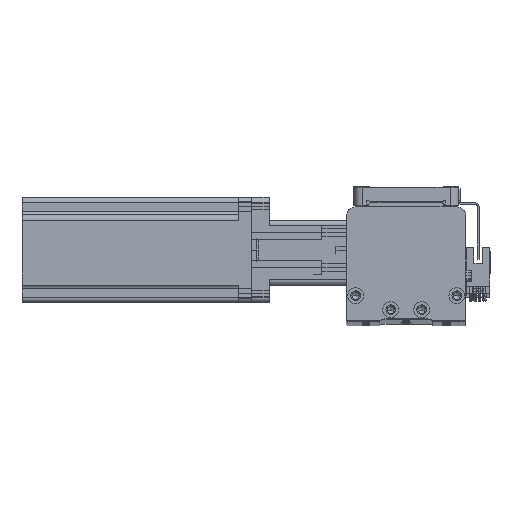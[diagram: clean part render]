
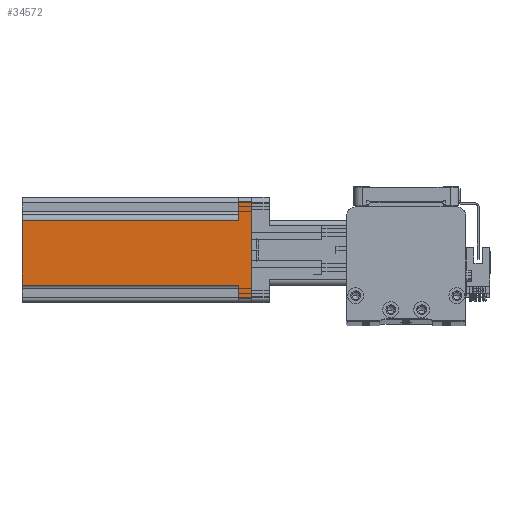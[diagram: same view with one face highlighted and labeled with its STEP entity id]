
A CAD part, top view. The second image highlights one B-rep face of the part: STEP entity #34572.
In plain terms, the highlighted planar face has unit normal (0, 0, 1) as drawn and (-1, 0, 0) by its records, which use the part's own axes.
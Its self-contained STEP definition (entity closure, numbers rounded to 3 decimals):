
#564 = CARTESIAN_POINT ( 'NONE',  ( -30., -27., 0. ) ) ;
#1394 = CARTESIAN_POINT ( 'NONE',  ( -30., 27., 7.5 ) ) ;
#2152 = EDGE_CURVE ( 'NONE', #39857, #15770, #28894, .T. ) ;
#3381 = FACE_OUTER_BOUND ( 'NONE', #32005, .T. ) ;
#3796 = ORIENTED_EDGE ( 'NONE', *, *, #9120, .T. ) ;
#3844 = DIRECTION ( 'NONE',  ( 0., 0., 1. ) ) ;
#4146 = LINE ( 'NONE', #44801, #44217 ) ;
#5208 = ORIENTED_EDGE ( 'NONE', *, *, #21636, .T. ) ;
#5736 = DIRECTION ( 'NONE',  ( 0., 0., 1. ) ) ;
#6199 = VERTEX_POINT ( 'NONE', #21286 ) ;
#7699 = VERTEX_POINT ( 'NONE', #49802 ) ;
#8066 = CARTESIAN_POINT ( 'NONE',  ( -30., -30., 0. ) ) ;
#9120 = EDGE_CURVE ( 'NONE', #10319, #39857, #33418, .T. ) ;
#9353 = VERTEX_POINT ( 'NONE', #9758 ) ;
#9758 = CARTESIAN_POINT ( 'NONE',  ( -30., -17., 7.5 ) ) ;
#10085 = LINE ( 'NONE', #47963, #39741 ) ;
#10319 = VERTEX_POINT ( 'NONE', #43093 ) ;
#10360 = CARTESIAN_POINT ( 'NONE',  ( -30., 20., 7.5 ) ) ;
#10923 = DIRECTION ( 'NONE',  ( 0., -1., 0. ) ) ;
#11721 = DIRECTION ( 'NONE',  ( 0., 1., 0. ) ) ;
#13825 = ORIENTED_EDGE ( 'NONE', *, *, #19940, .F. ) ;
#14317 = VECTOR ( 'NONE', #10923, 1000. ) ;
#15727 = ORIENTED_EDGE ( 'NONE', *, *, #2152, .T. ) ;
#15770 = VERTEX_POINT ( 'NONE', #26136 ) ;
#18259 = ORIENTED_EDGE ( 'NONE', *, *, #25940, .F. ) ;
#19940 = EDGE_CURVE ( 'NONE', #9353, #15770, #4146, .T. ) ;
#21286 = CARTESIAN_POINT ( 'NONE',  ( -30., -17., 130.7 ) ) ;
#21522 = DIRECTION ( 'NONE',  ( 0., -1., 0. ) ) ;
#21636 = EDGE_CURVE ( 'NONE', #9353, #6199, #37883, .T. ) ;
#22257 = CARTESIAN_POINT ( 'NONE',  ( -30., -30., 130.7 ) ) ;
#22318 = DIRECTION ( 'NONE',  ( 1., 0., 0. ) ) ;
#23174 = VECTOR ( 'NONE', #31202, 1000. ) ;
#24695 = DIRECTION ( 'NONE',  ( 0., 0., 1. ) ) ;
#24703 = VECTOR ( 'NONE', #11721, 1000. ) ;
#25940 = EDGE_CURVE ( 'NONE', #49722, #7699, #10085, .T. ) ;
#26136 = CARTESIAN_POINT ( 'NONE',  ( -30., -27., 7.5 ) ) ;
#26776 = EDGE_CURVE ( 'NONE', #7699, #6199, #34851, .T. ) ;
#27661 = VECTOR ( 'NONE', #47698, 1000. ) ;
#28079 = ORIENTED_EDGE ( 'NONE', *, *, #33471, .T. ) ;
#28435 = VERTEX_POINT ( 'NONE', #1394 ) ;
#28866 = LINE ( 'NONE', #43813, #27661 ) ;
#28894 = LINE ( 'NONE', #50330, #40454 ) ;
#29440 = AXIS2_PLACEMENT_3D ( 'NONE', #45569, #22318, #49457 ) ;
#29880 = PLANE ( 'NONE',  #29440 ) ;
#30967 = CARTESIAN_POINT ( 'NONE',  ( -30., 30., 7.5 ) ) ;
#31202 = DIRECTION ( 'NONE',  ( 0., -1., 0. ) ) ;
#32005 = EDGE_LOOP ( 'NONE', ( #13825, #5208, #49772, #18259, #28079, #49883, #3796, #15727 ) ) ;
#33418 = LINE ( 'NONE', #8066, #23174 ) ;
#33471 = EDGE_CURVE ( 'NONE', #49722, #28435, #45381, .T. ) ;
#34572 = ADVANCED_FACE ( 'NONE', ( #3381 ), #29880, .F. ) ;
#34851 = LINE ( 'NONE', #22257, #14317 ) ;
#37812 = EDGE_CURVE ( 'NONE', #28435, #10319, #28866, .T. ) ;
#37883 = LINE ( 'NONE', #44448, #48246 ) ;
#39741 = VECTOR ( 'NONE', #24695, 1000. ) ;
#39857 = VERTEX_POINT ( 'NONE', #564 ) ;
#40454 = VECTOR ( 'NONE', #3844, 1000. ) ;
#43093 = CARTESIAN_POINT ( 'NONE',  ( -30., 27., 0. ) ) ;
#43813 = CARTESIAN_POINT ( 'NONE',  ( -30., 27., 130.7 ) ) ;
#44217 = VECTOR ( 'NONE', #21522, 1000. ) ;
#44448 = CARTESIAN_POINT ( 'NONE',  ( -30., -17., 130.7 ) ) ;
#44801 = CARTESIAN_POINT ( 'NONE',  ( -30., -30., 7.5 ) ) ;
#45381 = LINE ( 'NONE', #30967, #24703 ) ;
#45569 = CARTESIAN_POINT ( 'NONE',  ( -30., -30., 130.7 ) ) ;
#47698 = DIRECTION ( 'NONE',  ( 0., 0., -1. ) ) ;
#47963 = CARTESIAN_POINT ( 'NONE',  ( -30., 20., 7.5 ) ) ;
#48246 = VECTOR ( 'NONE', #5736, 1000. ) ;
#49457 = DIRECTION ( 'NONE',  ( 0., 0., -1. ) ) ;
#49722 = VERTEX_POINT ( 'NONE', #10360 ) ;
#49772 = ORIENTED_EDGE ( 'NONE', *, *, #26776, .F. ) ;
#49802 = CARTESIAN_POINT ( 'NONE',  ( -30., 20., 130.7 ) ) ;
#49883 = ORIENTED_EDGE ( 'NONE', *, *, #37812, .T. ) ;
#50330 = CARTESIAN_POINT ( 'NONE',  ( -30., -27., 130.7 ) ) ;
